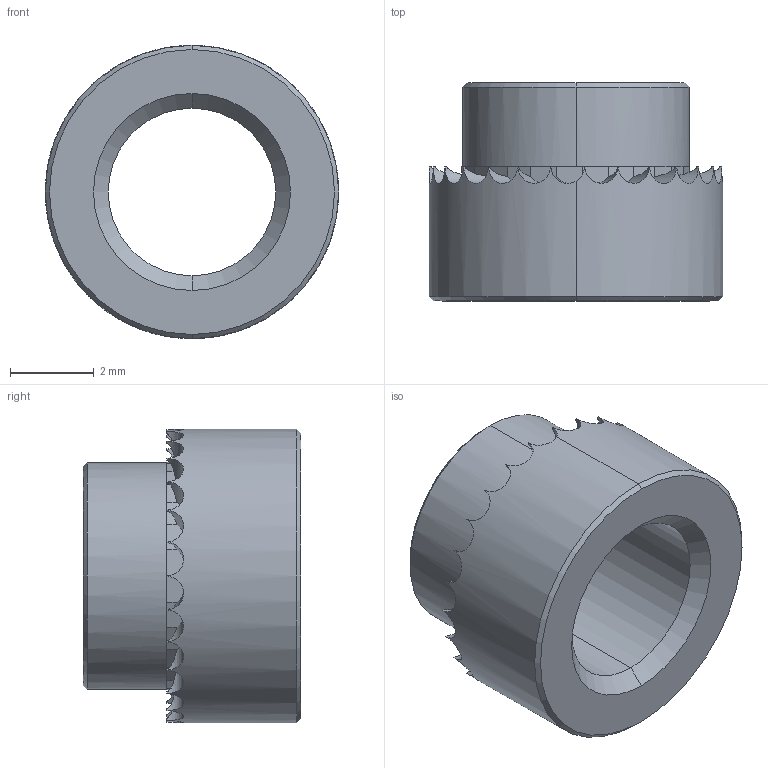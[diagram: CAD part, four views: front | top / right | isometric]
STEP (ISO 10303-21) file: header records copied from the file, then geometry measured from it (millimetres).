
FILE_DESCRIPTION (( 'STEP AP203' ), '1' );
FILE_NAME ('P0829.040-16G-ZP.step', '2019-03-21T22:15:16', ( '' ), ( '' ), 'SwSTEP 2.0', 'SolidWorks 2017', '' );
FILE_SCHEMA (( 'CONFIG_CONTROL_DESIGN' ));
Length unit declared in the file: millimetre
Products named in the file (1): P0829.040-16G-ZP
Bounding box: 7 x 5.2 x 7 mm (x, y, z)
Volume: 96.8 mm3; surface area: 218.1 mm2
Topology: 1 solids, 1 shells, 124 faces, 304 edges, 182 vertices
Faces by surface type: plane 83, cylinder 33, cone 8
Entity records: 3865 total; most frequent: CARTESIAN_POINT 943, ORIENTED_EDGE 608, DIRECTION 597, EDGE_CURVE 304, AXIS2_PLACEMENT_3D 224, VERTEX_POINT 182, VECTOR 149, LINE 149
